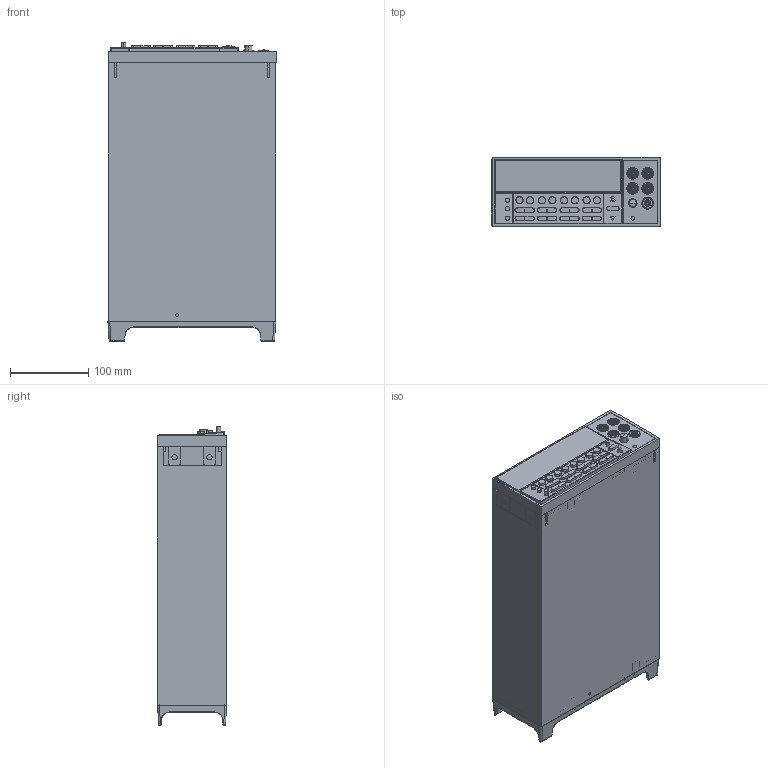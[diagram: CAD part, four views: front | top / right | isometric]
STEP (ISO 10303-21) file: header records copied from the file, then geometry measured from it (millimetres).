
FILE_DESCRIPTION((''),'2;1');
FILE_NAME('2010-SALES_ASM','2016-02-24T',('rrich'),('Keithley Instruments'),'CREO PARAMETRIC BY PTC INC, 2014440','CREO PARAMETRIC BY PTC INC, 2014440','');
FILE_SCHEMA(('CONFIG_CONTROL_DESIGN'));
Length unit declared in the file: inch
Products named in the file (19): 2001-327; 2001-302; 704-318; 428-303; 2000-303; 2000-315; 2000-303_ASM; BJ-30-2-SHELL; BJ-30-2-PIN; BJ-30-2_ASM; BJ-30-0-SHELL; BJ-30-0-PIN; BJ-30-0_ASM; 2001-318; 2001-320; 2001-322-PLEXUS; 2001-312; 2010-306; 2010-SALES_ASM
Assembly tree (20 placements, depth 3):
  2010-SALES_ASM
    2001-327
    2001-302
    704-318
    428-303
    2000-303_ASM
      2000-303
      2000-315
    BJ-30-2_ASM  x2
      BJ-30-2-SHELL
      BJ-30-2-PIN
    BJ-30-0_ASM  x2
      BJ-30-0-SHELL
      BJ-30-0-PIN
    2001-318
    2001-320
    2001-322-PLEXUS
    2001-312
    2010-306
Bounding box: 214.38 x 88.37 x 380.57 mm (x, y, z)
Volume: 495534.6 mm3; surface area: 647360.8 mm2
Topology: 18 solids, 19 shells, 4535 faces, 15068 edges, 13467 vertices
Faces by surface type: plane 3837, cylinder 518, cone 86, torus 56, bspline 24, sphere 14
Entity records: 152855 total; most frequent: CARTESIAN_POINT 29536, DIRECTION 24258, ORIENTED_EDGE 24118, VECTOR 13444, LINE 13444, EDGE_CURVE 12063, VERTEX_POINT 7973, AXIS2_PLACEMENT_3D 5407
